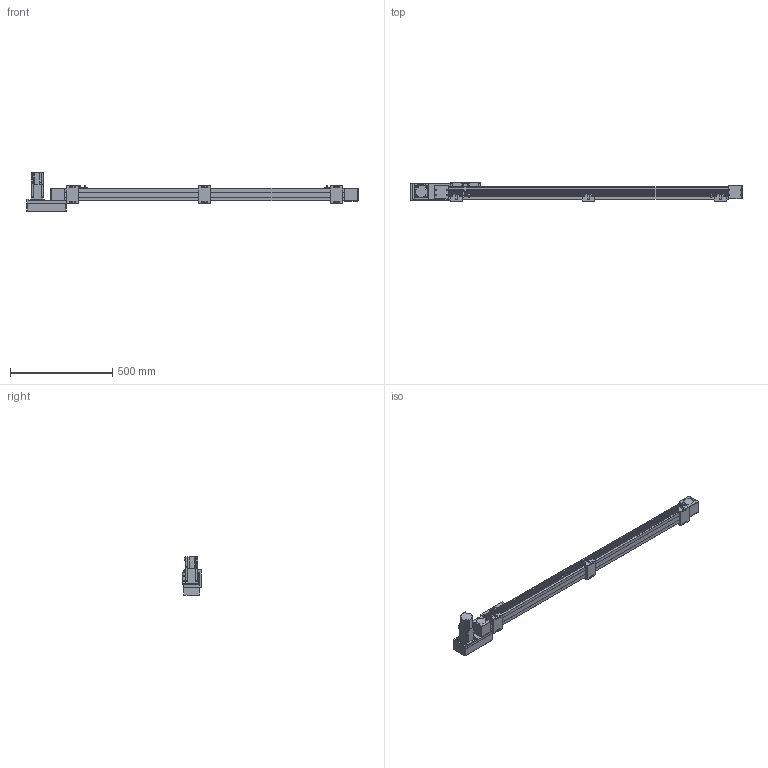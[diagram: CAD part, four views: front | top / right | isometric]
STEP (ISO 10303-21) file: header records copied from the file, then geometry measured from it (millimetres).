
FILE_DESCRIPTION(/* description */ ('STEP AP214'),/* implementation_level */ '2;1');
FILE_NAME(/* name */ 'SK60-P13-S1200-L-T40-C1-N(0)',/* time_stamp */ '2023-04-06T04:10:19+02:00',/* author */ ('License CC BY-ND 4.0'),/* organization */ ('CADENAS'),/* preprocessor_version */ 'ST-DEVELOPER v19.3',/* originating_system */ 'PARTsolutions',/* authorisation */ ' ');
FILE_SCHEMA (('AUTOMOTIVE_DESIGN {1 0 10303 214 3 1 1}'));
Length unit declared in the file: millimetre
Products named in the file (10): SK60-P13-S1200-L-T40-C1-N(0); PSC140-sensor; SK60-S450_seat; SK60-S450-BL-C1_slider; SK60_body3; SK60_body6; SK60-BL_body2; T40-p1; SK60-L_fb; SK60-S1200-L-C1_body
Assembly tree (17 placements, depth 2):
  SK60-P13-S1200-L-T40-C1-N(0)
    PSC140-sensor  x3
    SK60-S450_seat  x3
    SK60-S450-BL-C1_slider
    SK60_body3  x3
    SK60_body6  x2
    SK60-BL_body2  x2
    T40-p1
    SK60-L_fb
    SK60-S1200-L-C1_body
Bounding box: 1620.5 x 90 x 189.7 mm (x, y, z)
Volume: 6317707 mm3; surface area: 783834.3 mm2
Topology: 17 solids, 17 shells, 854 faces, 2146 edges, 1413 vertices
Faces by surface type: plane 548, cylinder 278, cone 26, torus 2
Full cylindrical faces by diameter (mm): 2.8 x3, 3.3 x4, 4 x2, 4.5 x30, 4.6 x3, 4.917 x20, 5 x6, 5.478 x4, 5.5 x23, 6.5 x6, 7 x2, 8 x4, 8.5 x4, 9.988 x4, 10 x12, 14 x1, 47 x3, 50 x2
Entity records: 18663 total; most frequent: DIRECTION 3186, CARTESIAN_POINT 3151, ORIENTED_EDGE 2940, EDGE_CURVE 1470, AXIS2_PLACEMENT_3D 1069, LINE 1048, VECTOR 1048, VERTEX_POINT 1034
